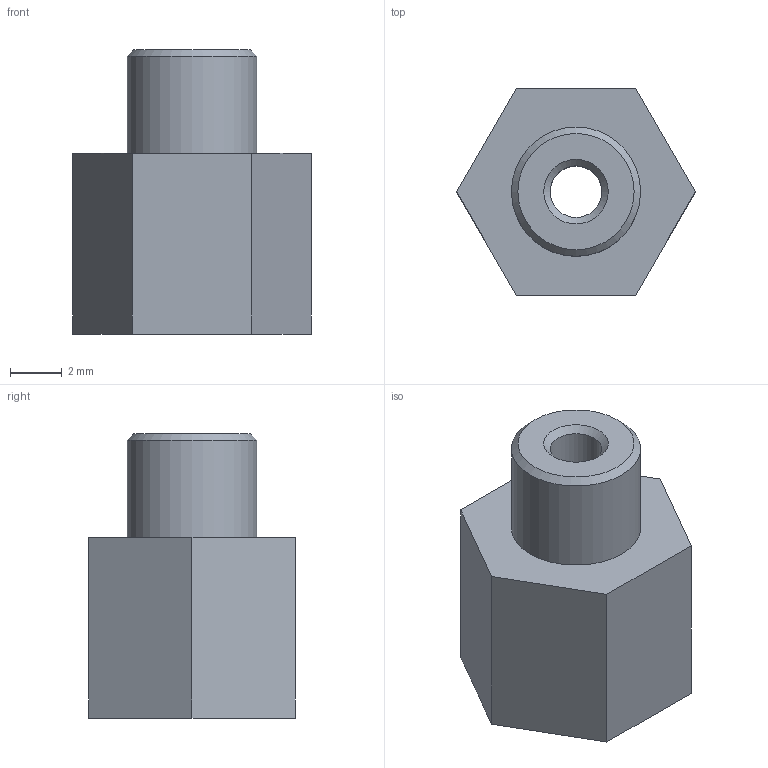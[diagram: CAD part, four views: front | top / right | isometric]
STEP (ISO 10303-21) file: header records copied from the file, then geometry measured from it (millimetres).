
FILE_DESCRIPTION(/* description */ (''),/* implementation_level */ '2;1');
FILE_NAME(/* name */ 'W:\Technik\Konstruktion\CAD-Daten\Vakuumsauger\270_\270.423\aktuell\270.423.stp',/* time_stamp */ '2017-05-19T09:12:11+02:00',/* author */ ('DFloßmann'),/* organization */ (''),/* preprocessor_version */ 'ST-DEVELOPER v16.5',/* originating_system */ 'Autodesk Inventor 2017',/* authorisation */ '');
FILE_SCHEMA (('AUTOMOTIVE_DESIGN { 1 0 10303 214 3 1 1 }'));
Length unit declared in the file: millimetre
Products named in the file (1): 270.423
Bounding box: 9.24 x 8 x 11 mm (x, y, z)
Volume: 334.9 mm3; surface area: 472.6 mm2
Topology: 1 solids, 1 shells, 16 faces, 35 edges, 22 vertices
Faces by surface type: plane 9, cone 4, cylinder 3
Full cylindrical faces by diameter (mm): 2 x1, 5 x2
Entity records: 426 total; most frequent: DIRECTION 70, CARTESIAN_POINT 65, ORIENTED_EDGE 54, EDGE_CURVE 27, EDGE_LOOP 26, AXIS2_PLACEMENT_3D 26, VERTEX_POINT 21, LINE 18
